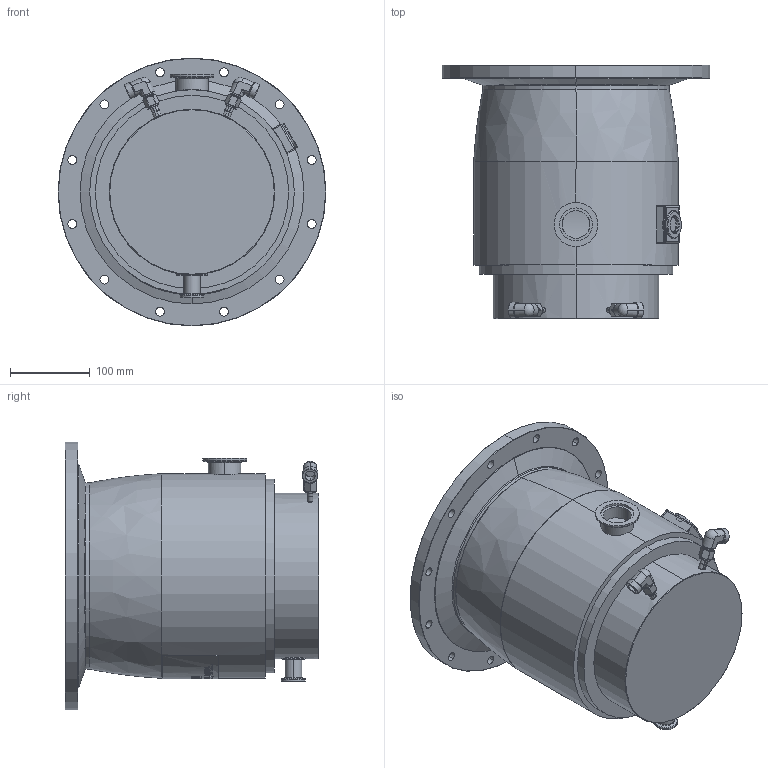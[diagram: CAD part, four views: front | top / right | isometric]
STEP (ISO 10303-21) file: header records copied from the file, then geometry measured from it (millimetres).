
FILE_DESCRIPTION((''),'2;1');
FILE_NAME('ENV-ATH1600M-DN250F-STD','2008-07-30T',('NVARENNES'),(''),'PRO/ENGINEER BY PARAMETRIC TECHNOLOGY CORPORATION, 2008010','PRO/ENGINEER BY PARAMETRIC TECHNOLOGY CORPORATION, 2008010','');
FILE_SCHEMA(('CONFIG_CONTROL_DESIGN'));
Length unit declared in the file: millimetre
Products named in the file (1): ENV-ATH1600M-DN250F-STD
Bounding box: 335 x 317.22 x 335 mm (x, y, z)
Volume: 15278840.2 mm3; surface area: 465861.6 mm2
Topology: 1 solids, 3 shells, 585 faces, 1484 edges, 945 vertices
Faces by surface type: plane 180, cylinder 171, bspline 164, cone 36, torus 32, sphere 2
Entity records: 25071 total; most frequent: CARTESIAN_POINT 11217, ORIENTED_EDGE 2964, DIRECTION 2397, EDGE_CURVE 1482, VERTEX_POINT 945, AXIS2_PLACEMENT_3D 889, EDGE_LOOP 671, VECTOR 619
